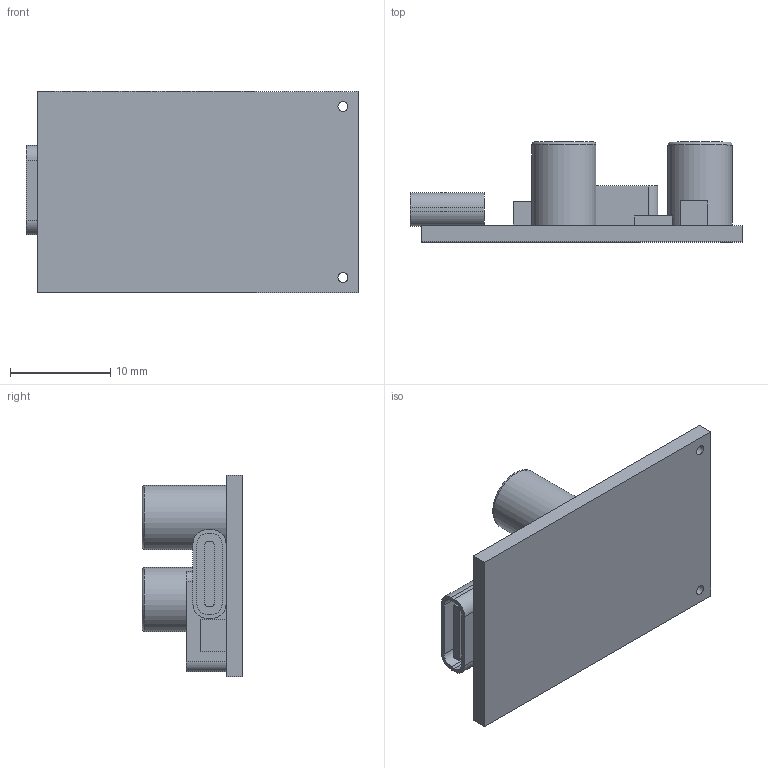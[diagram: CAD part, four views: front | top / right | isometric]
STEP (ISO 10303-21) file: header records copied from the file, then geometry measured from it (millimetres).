
FILE_DESCRIPTION(('FreeCAD Model'),'2;1');
FILE_NAME('Open CASCADE Shape Model','2023-05-06T18:44:57',('Author'),( ''),'Open CASCADE STEP processor 7.5','FreeCAD','Unknown');
FILE_SCHEMA(('AUTOMOTIVE_DESIGN { 1 0 10303 214 1 1 1 1 }'));
Length unit declared in the file: millimetre
Products named in the file (1): USB-C_PD_65W
Bounding box: 33.2 x 10 x 20.1 mm (x, y, z)
Volume: 2126.9 mm3; surface area: 2867.9 mm2
Topology: 9 solids, 9 shells, 73 faces, 162 edges, 108 vertices
Faces by surface type: plane 51, cylinder 20, torus 2
Full cylindrical faces by diameter (mm): 1 x2, 6.4 x2
Entity records: 2513 total; most frequent: DIRECTION 344, CARTESIAN_POINT 334, ORIENTED_EDGE 308, EDGE_CURVE 154, AXIS2_PLACEMENT_3D 116, VECTOR 112, LINE 112, VERTEX_POINT 106
